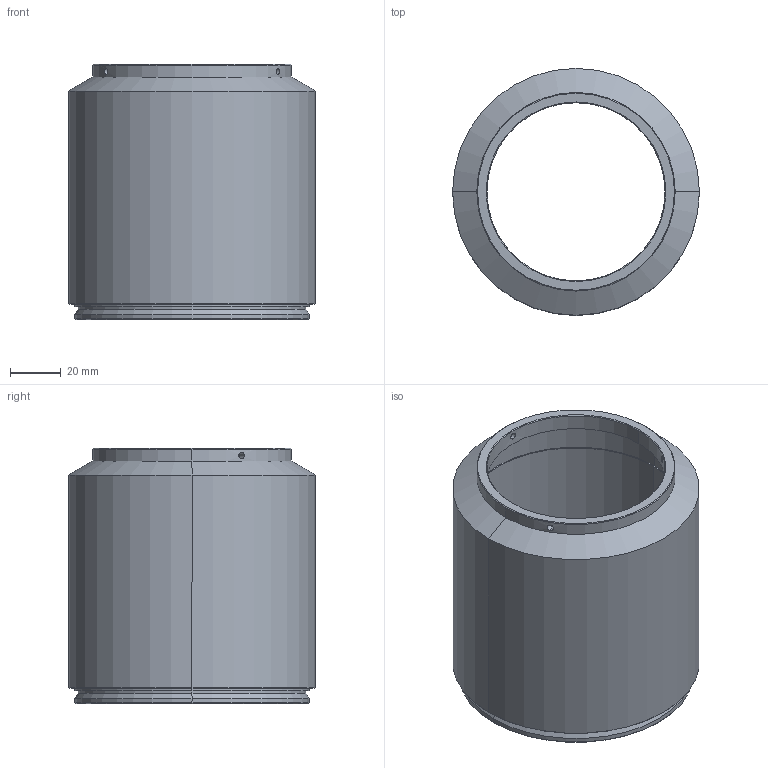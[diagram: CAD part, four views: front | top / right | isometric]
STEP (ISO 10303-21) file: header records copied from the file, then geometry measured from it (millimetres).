
FILE_DESCRIPTION (( 'STEP AP214' ), '1' );
FILE_NAME ('ML-13538-05-EXR-V70V92.STEP', '2026-03-02T01:31:08', ( '' ), ( '' ), 'SwSTEP 2.0', 'SolidWorks 2025', '' );
FILE_SCHEMA (( 'AUTOMOTIVE_DESIGN' ));
Length unit declared in the file: millimetre
Products named in the file (1): ML-13538-05-EXR-V70V92
Bounding box: 97 x 97 x 100.35 mm (x, y, z)
Volume: 148825.9 mm3; surface area: 62313.9 mm2
Topology: 1 solids, 1 shells, 43 faces, 92 edges, 54 vertices
Faces by surface type: cylinder 22, cone 16, plane 5
Entity records: 1395 total; most frequent: CARTESIAN_POINT 418, DIRECTION 210, ORIENTED_EDGE 184, EDGE_CURVE 92, AXIS2_PLACEMENT_3D 86, VERTEX_POINT 54, EDGE_LOOP 54, FACE_OUTER_BOUND 43
